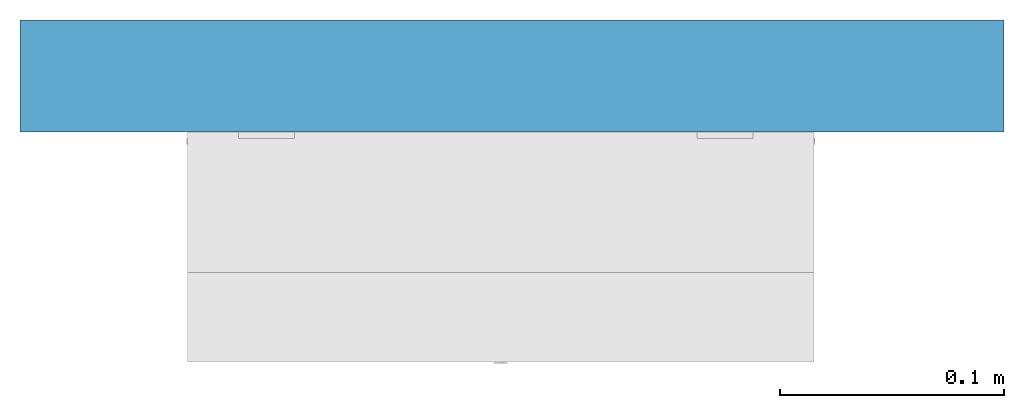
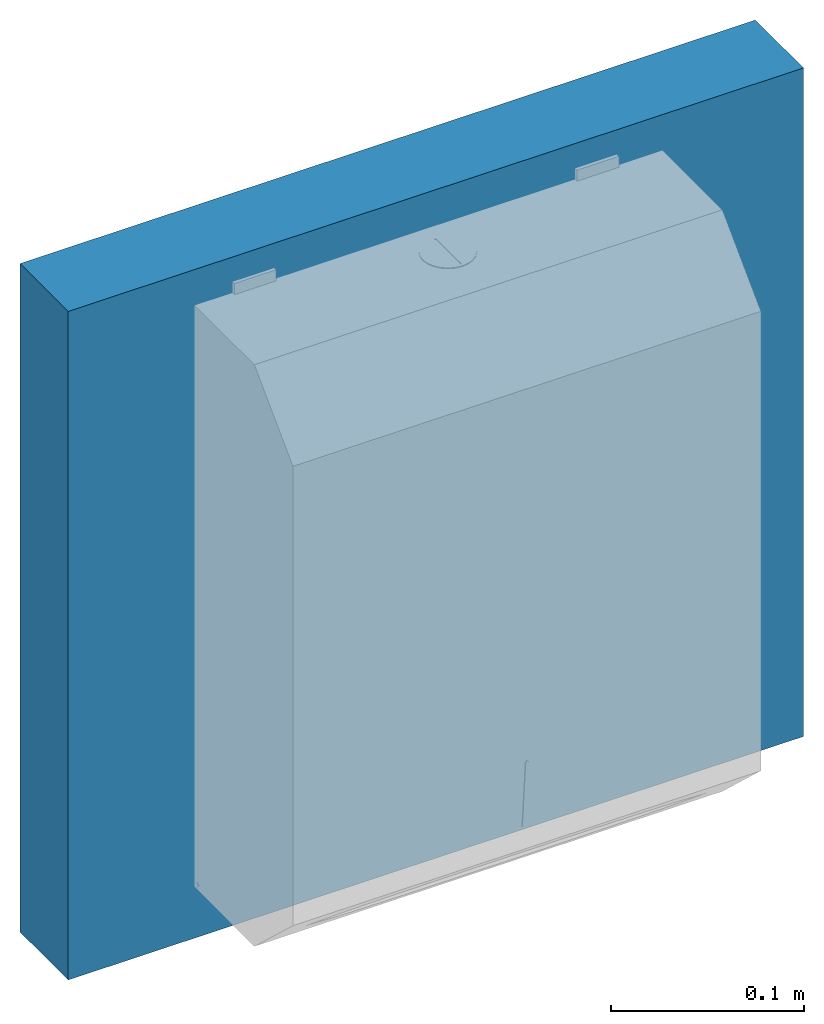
# One storey, incomplete: 1 wall.
"""IFC2X3 building model written with IfcOpenShell, lengths in millimetres."""

from ifc_helpers import new_model, entity, si_unit, converted_unit, derived_unit, direction, frame, frame_2d, origin, place, context, subcontext, project, spatial, rectangle, extrude, material, layer, layer_set, layer_usage, type_object, element, save


model = new_model("IFC2X3")

# Units and contexts
model_context = context("Model", 3, precision=1e-05, world=origin(), true_north=direction((2.0, 6.12303176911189e-17, 1.0)))
context_of_model = context(None, 3, precision=1e-05, world=origin(), true_north=direction((2.0, 6.12303176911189e-17, 1.0)))
body_context = subcontext(model_context, "Body", "Model", "MODEL_VIEW")
ifc_project = project(units=[si_unit("LENGTHUNIT", "METRE", prefix="MILLI"), si_unit("AREAUNIT", "SQUARE_METRE"), si_unit("VOLUMEUNIT", "CUBIC_METRE"), converted_unit("PLANEANGLEUNIT", "DEGREE", entity("IfcRatioMeasure", 0.0174532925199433), si_unit("PLANEANGLEUNIT", "RADIAN"), dimensions=[0, 0, 0, 0, 0, 0, 0]), si_unit("MASSUNIT", "GRAM", prefix="KILO"), si_unit("TIMEUNIT", "SECOND"), si_unit("THERMODYNAMICTEMPERATUREUNIT", "KELVIN"), derived_unit("THERMALTRANSMITTANCEUNIT", [(si_unit("MASSUNIT", "GRAM", prefix="KILO"), 1), (si_unit("THERMODYNAMICTEMPERATUREUNIT", "KELVIN"), -1), (si_unit("TIMEUNIT", "SECOND"), -3)]), derived_unit("VOLUMETRICFLOWRATEUNIT", [(si_unit("LENGTHUNIT", "METRE"), 3), (si_unit("TIMEUNIT", "SECOND"), -1)]), si_unit("POWERUNIT", "WATT")], contexts=[model_context, context_of_model])

# Site, building, storey
site_placement = place(None, origin())
site = spatial("IfcSite", under=ifc_project, at=site_placement, Name="Default", CompositionType="ELEMENT")
building_placement = place(site_placement, origin())
building = spatial("IfcBuilding", under=site, at=building_placement, CompositionType="ELEMENT")
storey_placement = place(building_placement, origin())
storey = spatial("IfcBuildingStorey", under=building, at=storey_placement, Name="Level 1", CompositionType="ELEMENT", Elevation=0.0)

# Wall
ifc_material = material(Name="Default Wall")
ifc_layer = layer(ifc_material, 50.0)
ifc_layer_set = layer_set([ifc_layer], Name="Basic Wall:Wall 1")
ifc_layer_usage = layer_usage(ifc_layer_set, "AXIS2", "NEGATIVE", 25.0)
wall_type = type_object("IfcWallType", Name="Basic Wall:Wall 1", PredefinedType="STANDARD", material=ifc_layer_set)
wall_placement = place(storey_placement, frame((1084.01757173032, 3977.69853342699, -175.506452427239)))
element("IfcWallStandardCase", 1, at=wall_placement, inside=storey, type_object=wall_type, material=ifc_layer_usage, Name="Basic Wall:Wall 1:3092", ObjectType="Basic Wall:Wall 1:1494", context=body_context, shape_type="SweptSolid", body=[
    extrude(rectangle(XDim=440.0, YDim=50.0000000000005, at=frame_2d((220.0, 0.0), x_axis=(-1.0, 0.0))), origin(), (0.0, 0.0, 1.0), 422.959879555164),
])

save(model, "model.ifc")
